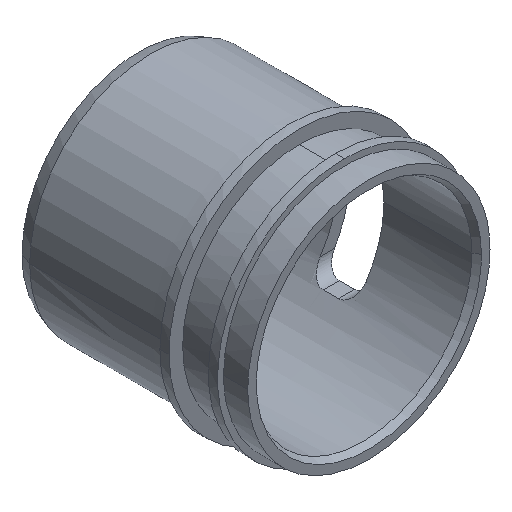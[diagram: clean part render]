
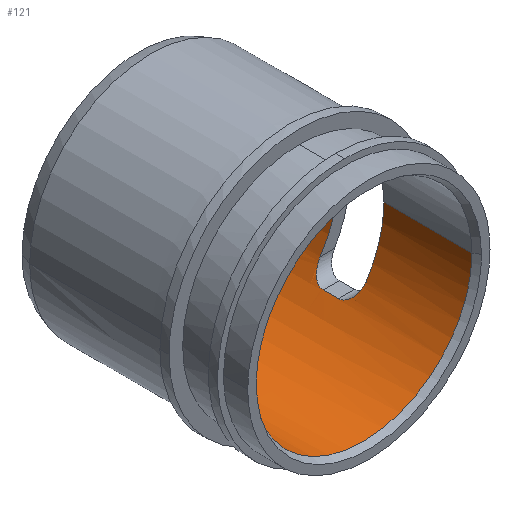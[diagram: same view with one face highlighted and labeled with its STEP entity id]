
A CAD part, isometric view. The second image highlights one B-rep face of the part: STEP entity #121.
In plain terms, the highlighted face is a revolution surface.
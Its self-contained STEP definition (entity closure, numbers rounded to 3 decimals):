
#121=ADVANCED_FACE('',(#186),#187,.T.);
#186=FACE_OUTER_BOUND('',#300,.T.);
#187=SURFACE_OF_REVOLUTION('',#301,#302);
#300=EDGE_LOOP('',(#512,#513,#514,#515,#516,#517,#518,#519,#520,#521));
#301=B_SPLINE_CURVE_WITH_KNOTS('',1,(#522,#523),.UNSPECIFIED.,.F.,.F.,(2,2),(0.019,0.981),.UNSPECIFIED.);
#302=AXIS1_PLACEMENT('',#524,#525);
#512=ORIENTED_EDGE('',*,*,#544,.T.);
#513=ORIENTED_EDGE('',*,*,#607,.T.);
#514=ORIENTED_EDGE('',*,*,#552,.T.);
#515=ORIENTED_EDGE('',*,*,#599,.T.);
#516=ORIENTED_EDGE('',*,*,#606,.T.);
#517=ORIENTED_EDGE('',*,*,#600,.T.);
#518=ORIENTED_EDGE('',*,*,#605,.T.);
#519=ORIENTED_EDGE('',*,*,#590,.T.);
#520=ORIENTED_EDGE('',*,*,#603,.T.);
#521=ORIENTED_EDGE('',*,*,#593,.T.);
#522=CARTESIAN_POINT('',(71.0,-323.1,315.5));
#523=CARTESIAN_POINT('',(71.0,-397.1,315.5));
#524=CARTESIAN_POINT('',(35.0,-321.62,315.5));
#525=DIRECTION('',(-0.0,1.0,-0.0));
#544=EDGE_CURVE('',#627,#625,#628,.T.);
#552=EDGE_CURVE('',#643,#641,#644,.T.);
#590=EDGE_CURVE('',#704,#705,#706,.T.);
#593=EDGE_CURVE('',#709,#627,#710,.T.);
#599=EDGE_CURVE('',#641,#717,#719,.T.);
#600=EDGE_CURVE('',#720,#721,#722,.T.);
#603=EDGE_CURVE('',#705,#709,#725,.T.);
#605=EDGE_CURVE('',#721,#704,#727,.T.);
#606=EDGE_CURVE('',#717,#720,#728,.T.);
#607=EDGE_CURVE('',#625,#643,#729,.T.);
#625=VERTEX_POINT('',#991);
#627=VERTEX_POINT('',#994);
#628=B_SPLINE_CURVE_WITH_KNOTS('',3,(#995,#996,#997,#998,#999,#1000,#1001,#1002,#1003,#1004,#1005,#1006,#1007,#1008,#1009,#1010,#1011,#1012,#1013),.UNSPECIFIED.,.F.,.F.,(4,1,1,1,1,1,1,1,1,1,1,1,1,1,1,1,4),(0.0,0.035,0.069,0.102,0.135,0.168,0.2,0.351,0.5,0.628,0.75,0.814,0.875,0.906,0.937,0.965,1.0),.UNSPECIFIED.);
#641=VERTEX_POINT('',#1110);
#643=VERTEX_POINT('',#1113);
#644=B_SPLINE_CURVE_WITH_KNOTS('',3,(#1114,#1115,#1116,#1117,#1118,#1119,#1120,#1121,#1122,#1123,#1124,#1125,#1126,#1127,#1128,#1129,#1130,#1131,#1132,#1133,#1134,#1135),.UNSPECIFIED.,.F.,.F.,(4,1,1,1,1,1,1,1,1,1,1,1,1,1,1,1,1,1,1,4),(0.0,0.022,0.045,0.067,0.089,0.112,0.134,0.157,0.18,0.203,0.226,0.25,0.371,0.5,0.599,0.7,0.775,0.85,0.92,1.0),.UNSPECIFIED.);
#704=VERTEX_POINT('',#1840);
#705=VERTEX_POINT('',#1841);
#706=(B_SPLINE_CURVE(3,(#1843,#1844,#1845,#1846),.UNSPECIFIED.,.F.,.F.)B_SPLINE_CURVE_WITH_KNOTS((4,4),(0.0,3.142),.UNSPECIFIED.)RATIONAL_B_SPLINE_CURVE((1.0,0.333,0.333,1.0))BOUNDED_CURVE()REPRESENTATION_ITEM('')GEOMETRIC_REPRESENTATION_ITEM()CURVE());
#709=VERTEX_POINT('',#1857);
#710=(B_SPLINE_CURVE(3,(#1859,#1860,#1861,#1862),.UNSPECIFIED.,.F.,.F.)B_SPLINE_CURVE_WITH_KNOTS((4,4),(0.0,0.589),.UNSPECIFIED.)RATIONAL_B_SPLINE_CURVE((1.0,0.971,0.971,1.0))BOUNDED_CURVE()REPRESENTATION_ITEM('')GEOMETRIC_REPRESENTATION_ITEM()CURVE());
#717=VERTEX_POINT('',#1920);
#719=(B_SPLINE_CURVE(3,(#1933,#1934,#1935,#1936),.UNSPECIFIED.,.F.,.F.)B_SPLINE_CURVE_WITH_KNOTS((4,4),(0.0,0.589),.UNSPECIFIED.)RATIONAL_B_SPLINE_CURVE((1.0,0.971,0.971,1.0))BOUNDED_CURVE()REPRESENTATION_ITEM('')GEOMETRIC_REPRESENTATION_ITEM()CURVE());
#720=VERTEX_POINT('',#1943);
#721=VERTEX_POINT('',#1944);
#722=(B_SPLINE_CURVE(3,(#1946,#1947,#1948,#1949),.UNSPECIFIED.,.F.,.F.)B_SPLINE_CURVE_WITH_KNOTS((4,4),(0.0,3.142),.UNSPECIFIED.)RATIONAL_B_SPLINE_CURVE((1.0,0.333,0.333,1.0))BOUNDED_CURVE()REPRESENTATION_ITEM('')GEOMETRIC_REPRESENTATION_ITEM()CURVE());
#725=B_SPLINE_CURVE_WITH_KNOTS('',1,(#1969,#1970),.UNSPECIFIED.,.F.,.F.,(2,2),(0.0,1.0),.UNSPECIFIED.);
#727=B_SPLINE_CURVE_WITH_KNOTS('',1,(#1982,#1983),.UNSPECIFIED.,.F.,.F.,(2,2),(0.0,1.0),.UNSPECIFIED.);
#728=B_SPLINE_CURVE_WITH_KNOTS('',1,(#1984,#1985),.UNSPECIFIED.,.F.,.F.,(2,2),(0.0,1.0),.UNSPECIFIED.);
#729=B_SPLINE_CURVE_WITH_KNOTS('',1,(#1986,#1987),.UNSPECIFIED.,.F.,.F.,(2,2),(0.0,1.0),.UNSPECIFIED.);
#991=CARTESIAN_POINT('',(60.904,-363.1,290.5));
#994=CARTESIAN_POINT('',(64.933,-368.1,295.5));
#995=CARTESIAN_POINT('',(64.933,-368.1,295.5));
#996=CARTESIAN_POINT('',(64.875,-368.097,295.414));
#997=CARTESIAN_POINT('',(64.761,-368.092,295.243));
#998=CARTESIAN_POINT('',(64.588,-368.072,294.992));
#999=CARTESIAN_POINT('',(64.416,-368.041,294.747));
#1000=CARTESIAN_POINT('',(64.246,-368.,294.508));
#1001=CARTESIAN_POINT('',(64.078,-367.948,294.275));
#1002=CARTESIAN_POINT('',(63.705,-367.809,293.768));
#1003=CARTESIAN_POINT('',(63.127,-367.492,293.019));
#1004=CARTESIAN_POINT('',(62.411,-366.864,292.155));
#1005=CARTESIAN_POINT('',(61.801,-366.105,291.46));
#1006=CARTESIAN_POINT('',(61.4,-365.371,291.024));
#1007=CARTESIAN_POINT('',(61.155,-364.727,290.762));
#1008=CARTESIAN_POINT('',(61.036,-364.29,290.637));
#1009=CARTESIAN_POINT('',(60.968,-363.933,290.566));
#1010=CARTESIAN_POINT('',(60.931,-363.67,290.528));
#1011=CARTESIAN_POINT('',(60.91,-363.392,290.507));
#1012=CARTESIAN_POINT('',(60.906,-363.205,290.503));
#1013=CARTESIAN_POINT('',(60.904,-363.1,290.5));
#1110=CARTESIAN_POINT('',(64.933,-353.1,295.5));
#1113=CARTESIAN_POINT('',(60.904,-358.1,290.5));
#1114=CARTESIAN_POINT('',(60.904,-358.1,290.5));
#1115=CARTESIAN_POINT('',(60.905,-358.033,290.501));
#1116=CARTESIAN_POINT('',(60.907,-357.899,290.503));
#1117=CARTESIAN_POINT('',(60.919,-357.699,290.516));
#1118=CARTESIAN_POINT('',(60.939,-357.501,290.536));
#1119=CARTESIAN_POINT('',(60.965,-357.305,290.564));
#1120=CARTESIAN_POINT('',(60.999,-357.111,290.599));
#1121=CARTESIAN_POINT('',(61.039,-356.919,290.641));
#1122=CARTESIAN_POINT('',(61.087,-356.728,290.692));
#1123=CARTESIAN_POINT('',(61.142,-356.54,290.749));
#1124=CARTESIAN_POINT('',(61.204,-356.353,290.815));
#1125=CARTESIAN_POINT('',(61.273,-356.168,290.888));
#1126=CARTESIAN_POINT('',(61.451,-355.737,291.079));
#1127=CARTESIAN_POINT('',(61.801,-355.095,291.46));
#1128=CARTESIAN_POINT('',(62.335,-354.43,292.069));
#1129=CARTESIAN_POINT('',(62.876,-353.924,292.715));
#1130=CARTESIAN_POINT('',(63.346,-353.592,293.304));
#1131=CARTESIAN_POINT('',(63.781,-353.362,293.871));
#1132=CARTESIAN_POINT('',(64.162,-353.216,294.388));
#1133=CARTESIAN_POINT('',(64.549,-353.127,294.932));
#1134=CARTESIAN_POINT('',(64.8,-353.109,295.303));
#1135=CARTESIAN_POINT('',(64.933,-353.1,295.5));
#1840=CARTESIAN_POINT('',(-1.,-397.1,315.5));
#1841=CARTESIAN_POINT('',(71.0,-397.1,315.5));
#1843=CARTESIAN_POINT('',(-1.,-397.1,315.5));
#1844=CARTESIAN_POINT('',(-1.,-397.1,243.5));
#1845=CARTESIAN_POINT('',(71.0,-397.1,243.5));
#1846=CARTESIAN_POINT('',(71.0,-397.1,315.5));
#1857=CARTESIAN_POINT('',(71.0,-368.1,315.5));
#1859=CARTESIAN_POINT('',(71.0,-368.1,315.5));
#1860=CARTESIAN_POINT('',(71.0,-368.1,308.327));
#1861=CARTESIAN_POINT('',(68.918,-368.1,301.464));
#1862=CARTESIAN_POINT('',(64.933,-368.1,295.5));
#1920=CARTESIAN_POINT('',(71.0,-353.1,315.5));
#1933=CARTESIAN_POINT('',(64.933,-353.1,295.5));
#1934=CARTESIAN_POINT('',(68.918,-353.1,301.464));
#1935=CARTESIAN_POINT('',(71.0,-353.1,308.327));
#1936=CARTESIAN_POINT('',(71.0,-353.1,315.5));
#1943=CARTESIAN_POINT('',(71.0,-323.1,315.5));
#1944=CARTESIAN_POINT('',(-1.,-323.1,315.5));
#1946=CARTESIAN_POINT('',(71.0,-323.1,315.5));
#1947=CARTESIAN_POINT('',(71.0,-323.1,243.5));
#1948=CARTESIAN_POINT('',(-1.,-323.1,243.5));
#1949=CARTESIAN_POINT('',(-1.,-323.1,315.5));
#1969=CARTESIAN_POINT('',(71.0,-397.1,315.5));
#1970=CARTESIAN_POINT('',(71.0,-368.1,315.5));
#1982=CARTESIAN_POINT('',(-1.,-323.1,315.5));
#1983=CARTESIAN_POINT('',(-1.,-397.1,315.5));
#1984=CARTESIAN_POINT('',(71.0,-353.1,315.5));
#1985=CARTESIAN_POINT('',(71.0,-323.1,315.5));
#1986=CARTESIAN_POINT('',(60.904,-363.1,290.5));
#1987=CARTESIAN_POINT('',(60.904,-358.1,290.5));
